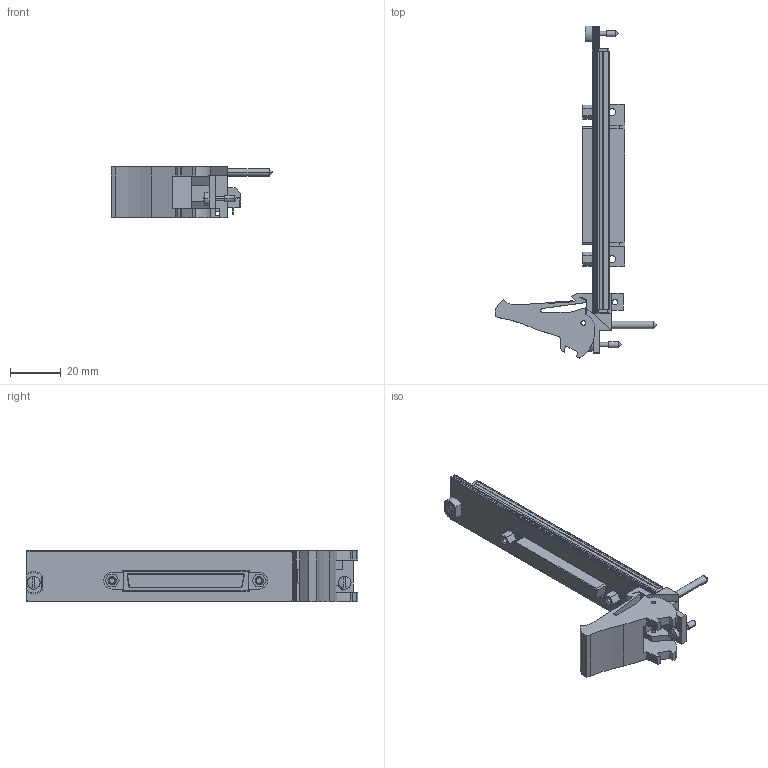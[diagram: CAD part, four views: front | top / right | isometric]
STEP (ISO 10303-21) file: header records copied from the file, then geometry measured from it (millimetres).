
FILE_DESCRIPTION((''),'2;1');
FILE_NAME('CU_PXI-8430_8','2013-07-16T',('talbott'),(''),'PRO/ENGINEER BY PARAMETRIC TECHNOLOGY CORPORATION, 2011490','PRO/ENGINEER BY PARAMETRIC TECHNOLOGY CORPORATION, 2011490','');
FILE_SCHEMA(('CONFIG_CONTROL_DESIGN'));
Length unit declared in the file: inch
Products named in the file (1): CU_PXI-8430_8
Bounding box: 63.53 x 130.62 x 20.24 mm (x, y, z)
Volume: 17793.9 mm3; surface area: 17908.1 mm2
Topology: 1 solids, 1 shells, 362 faces, 993 edges, 649 vertices
Faces by surface type: plane 229, cylinder 111, cone 14, sphere 4, torus 4
Entity records: 11515 total; most frequent: CARTESIAN_POINT 2004, ORIENTED_EDGE 1978, DIRECTION 1968, EDGE_CURVE 989, VECTOR 732, LINE 732, VERTEX_POINT 649, AXIS2_PLACEMENT_3D 618
